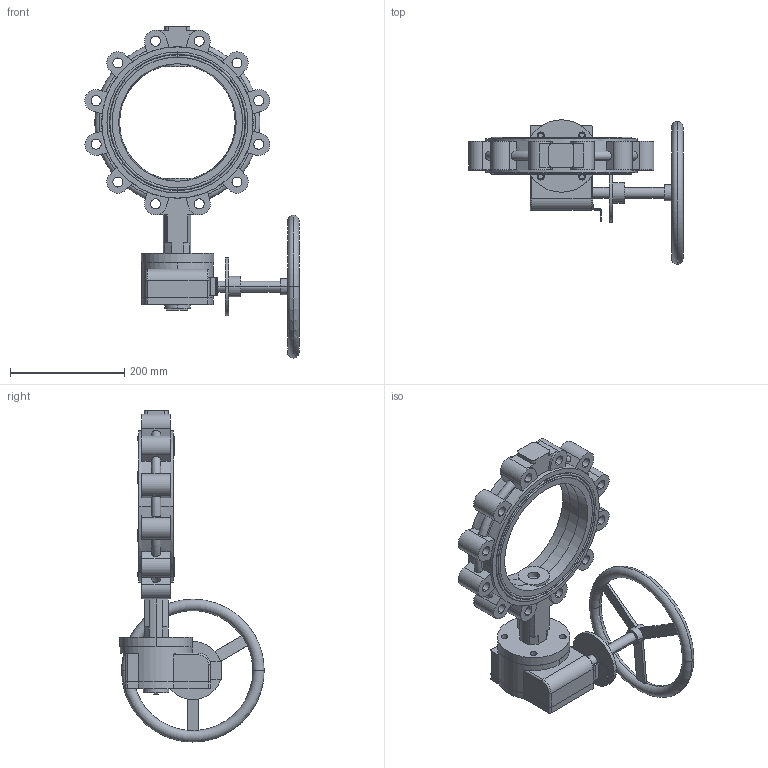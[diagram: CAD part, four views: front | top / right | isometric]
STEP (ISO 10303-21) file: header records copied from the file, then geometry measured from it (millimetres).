
FILE_DESCRIPTION (( 'STEP AP203' ), '1' );
FILE_NAME ('DN200凸耳涡轮.STEP', '2026-06-11T08:24:11', ( '微软用户' ), ( '微软中国' ), 'SwSTEP 2.0', 'SolidWorks 2024', '' );
FILE_SCHEMA (( 'CONFIG_CONTROL_DESIGN' ));
Length unit declared in the file: millimetre
Products named in the file (4): DN200凸耳涡轮; 8寸涡轮头; 200凸耳PN16，16.6公斤; 衬胶8寸
Assembly tree (3 placements, depth 2):
  DN200凸耳涡轮
    200凸耳PN16，16.6公斤
    衬胶8寸
    8寸涡轮头
Bounding box: 374.95 x 253 x 581.5 mm (x, y, z)
Volume: 4025317.6 mm3; surface area: 685455.7 mm2
Topology: 6 solids, 6 shells, 362 faces, 967 edges, 631 vertices
Faces by surface type: plane 189, cylinder 141, torus 24, cone 8
Entity records: 13133 total; most frequent: CARTESIAN_POINT 3397, DIRECTION 2016, ORIENTED_EDGE 1930, EDGE_CURVE 965, AXIS2_PLACEMENT_3D 765, VERTEX_POINT 631, VECTOR 486, LINE 486
